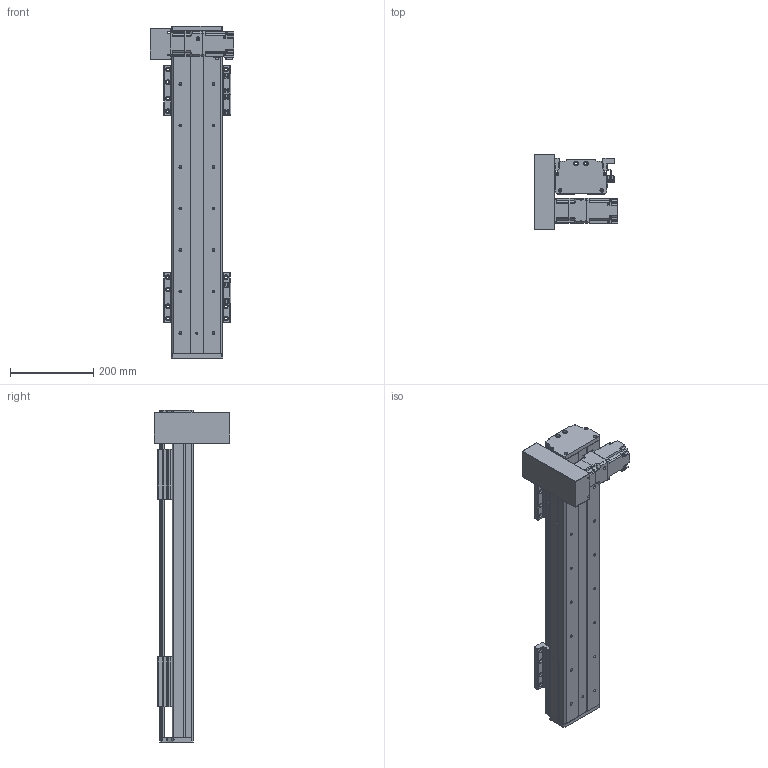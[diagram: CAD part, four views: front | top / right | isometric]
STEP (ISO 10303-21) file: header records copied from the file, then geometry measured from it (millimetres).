
FILE_DESCRIPTION(/* description */ (''),/* implementation_level */ '2;1');
FILE_NAME(/* name */ 'C:\Users\PC\Desktop\3D도면\STEP\DSB125-DL2G-W0500-R.stp',/* time_stamp */ '2018-06-21T14:47:57+09:00',/* author */ ('PC'),/* organization */ (''),/* preprocessor_version */ 'ST-DEVELOPER v16.5',/* originating_system */ 'Autodesk Inventor 2017',/* authorisation */ '');
FILE_SCHEMA (('AUTOMOTIVE_DESIGN { 1 0 10303 214 3 1 1 }'));
Length unit declared in the file: millimetre
Products named in the file (12): DSB125-L-300ST; DSR125-BASE(S-TYPE); DSR125-REAR COVER-R01(170203); DSR125-REAR COVER-R01(170203)_1; DSR125-UP COVER-R01(170203); hg-kr23_; ab0601-p0401200402; 13-BELT COVER; DSR126-SENSOR DOG; pm-y65_step; SENSOR BRACKET(EE-SX674A); DSR125-TABLE(MSA15X)
Assembly tree (16 placements, depth 2):
  DSB125-L-300ST
    DSR125-BASE(S-TYPE)
    DSR125-REAR COVER-R01(170203)
    DSR125-REAR COVER-R01(170203)_1
    DSR125-UP COVER-R01(170203)
    hg-kr23_
    ab0601-p0401200402
    13-BELT COVER
    DSR126-SENSOR DOG
    pm-y65_step  x3
    SENSOR BRACKET(EE-SX674A)  x3
    DSR125-TABLE(MSA15X)  x2
Bounding box: 202.1 x 182 x 800 mm (x, y, z)
Volume: 3416428.7 mm3; surface area: 987765 mm2
Topology: 17 solids, 22 shells, 1653 faces, 4481 edges, 2958 vertices
Faces by surface type: plane 908, cylinder 627, cone 106, sphere 8, torus 4
Full cylindrical faces by diameter (mm): 2.459 x20, 3.242 x16, 3.5 x6, 4 x1, 4.134 x16, 4.2 x4, 4.3 x1, 4.5 x50, 4.917 x20, 5 x27, 5.3 x1, 5.5 x4, 5.6 x8, 5.8 x4, 5.9 x8, 6 x4, 6.6 x22, 6.647 x16, 7.5 x32, 8.5 x8, 8.7 x1, 11 x22, 14 x1, 16 x2, 17 x1, 20 x1, 47 x1, 50 x3
Entity records: 35190 total; most frequent: CARTESIAN_POINT 6475, DIRECTION 6092, ORIENTED_EDGE 5462, EDGE_CURVE 2736, AXIS2_PLACEMENT_3D 2234, VERTEX_POINT 1945, EDGE_LOOP 1657, LINE 1624
